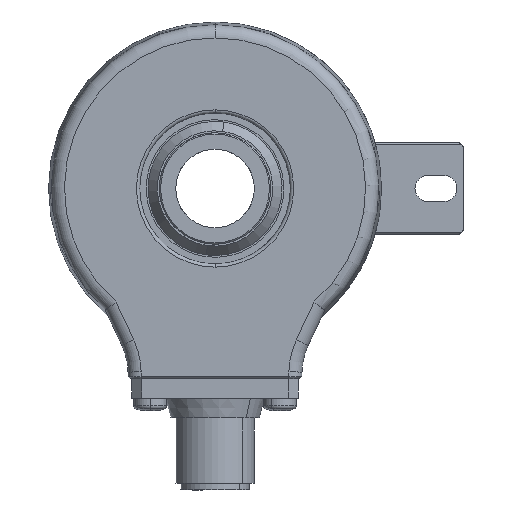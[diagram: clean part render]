
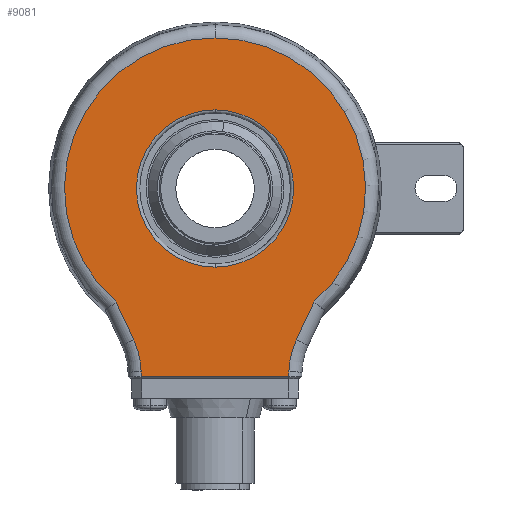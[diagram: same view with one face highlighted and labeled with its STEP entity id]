
A CAD part, left-side view. The second image highlights one B-rep face of the part: STEP entity #9081.
In plain terms, the highlighted planar face has unit normal (-1, 0, 0).
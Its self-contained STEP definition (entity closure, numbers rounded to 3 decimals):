
#1371 = FACE_OUTER_BOUND ( 'NONE', #8936, .T. ) ;
#1372 = DIRECTION ( 'NONE',  ( 0., 0., 1. ) ) ;
#1373 = DIRECTION ( 'NONE',  ( 1., 0., 0. ) ) ;
#1384 = AXIS2_PLACEMENT_3D ( 'NONE', #1387, #1373, #1372 ) ;
#1385 = CIRCLE ( 'NONE', #1384, 12. ) ;
#1386 = FACE_BOUND ( 'NONE', #8933, .T. ) ;
#1387 = CARTESIAN_POINT ( 'NONE',  ( -21., 0., 0. ) ) ;
#1401 = DIRECTION ( 'NONE',  ( 0., 0., 1. ) ) ;
#1402 = DIRECTION ( 'NONE',  ( 1., 0., 0. ) ) ;
#1403 = CARTESIAN_POINT ( 'NONE',  ( -21., 0., 0. ) ) ;
#1404 = AXIS2_PLACEMENT_3D ( 'NONE', #1403, #1402, #1401 ) ;
#1406 = PLANE ( 'NONE',  #1404 ) ;
#1548 = DIRECTION ( 'NONE',  ( 0., -0.017, 1. ) ) ;
#1549 = VECTOR ( 'NONE', #1548, 1000. ) ;
#1550 = CARTESIAN_POINT ( 'NONE',  ( -21., -11.752, -0.205 ) ) ;
#1551 = LINE ( 'NONE', #1550, #1549 ) ;
#1584 = DIRECTION ( 'NONE',  ( 0., -0.017, -1. ) ) ;
#1585 = VECTOR ( 'NONE', #1584, 1000. ) ;
#1586 = CARTESIAN_POINT ( 'NONE',  ( -21., 11.752, -0.205 ) ) ;
#1587 = LINE ( 'NONE', #1586, #1585 ) ;
#2476 = CARTESIAN_POINT ( 'NONE',  ( -21., -11.255, -28.695 ) ) ;
#2661 = DIRECTION ( 'NONE',  ( 0., -1., 0. ) ) ;
#2662 = VECTOR ( 'NONE', #2661, 1000. ) ;
#2663 = CARTESIAN_POINT ( 'NONE',  ( -21., -11.25, -28.695 ) ) ;
#2664 = LINE ( 'NONE', #2663, #2662 ) ;
#3091 = CARTESIAN_POINT ( 'NONE',  ( -21., 11.255, -28.695 ) ) ;
#7891 = VERTEX_POINT ( 'NONE', #12160 ) ;
#7892 = EDGE_CURVE ( 'NONE', #8028, #7891, #12167, .T. ) ;
#7896 = VERTEX_POINT ( 'NONE', #12159 ) ;
#7904 = EDGE_CURVE ( 'NONE', #8073, #7924, #12193, .T. ) ;
#7923 = VERTEX_POINT ( 'NONE', #12307 ) ;
#7924 = VERTEX_POINT ( 'NONE', #12294 ) ;
#7977 = EDGE_CURVE ( 'NONE', #7891, #7896, #12327, .T. ) ;
#7983 = EDGE_CURVE ( 'NONE', #7924, #8027, #12519, .T. ) ;
#8006 = VERTEX_POINT ( 'NONE', #12553 ) ;
#8007 = VERTEX_POINT ( 'NONE', #12551 ) ;
#8026 = EDGE_CURVE ( 'NONE', #8027, #8028, #12650, .T. ) ;
#8027 = VERTEX_POINT ( 'NONE', #12771 ) ;
#8028 = VERTEX_POINT ( 'NONE', #12770 ) ;
#8073 = VERTEX_POINT ( 'NONE', #12719 ) ;
#8075 = EDGE_CURVE ( 'NONE', #7923, #8073, #12717, .T. ) ;
#8166 = EDGE_CURVE ( 'NONE', #8007, #8006, #13001, .T. ) ;
#8933 = EDGE_LOOP ( 'NONE', ( #8934, #8935 ) ) ;
#8934 = ORIENTED_EDGE ( 'NONE', *, *, #8166, .T. ) ;
#8935 = ORIENTED_EDGE ( 'NONE', *, *, #9080, .T. ) ;
#8936 = EDGE_LOOP ( 'NONE', ( #8937, #8938, #9116, #9118, #9119, #9120, #9121, #9122, #9123 ) ) ;
#8937 = ORIENTED_EDGE ( 'NONE', *, *, #9128, .T. ) ;
#8938 = ORIENTED_EDGE ( 'NONE', *, *, #9466, .T. ) ;
#9080 = EDGE_CURVE ( 'NONE', #8006, #8007, #1385, .T. ) ;
#9081 = ADVANCED_FACE ( 'NONE', ( #1386, #1371 ), #1406, .F. ) ;
#9116 = ORIENTED_EDGE ( 'NONE', *, *, #9117, .T. ) ;
#9117 = EDGE_CURVE ( 'NONE', #9421, #7923, #1551, .T. ) ;
#9118 = ORIENTED_EDGE ( 'NONE', *, *, #8075, .T. ) ;
#9119 = ORIENTED_EDGE ( 'NONE', *, *, #7904, .T. ) ;
#9120 = ORIENTED_EDGE ( 'NONE', *, *, #7983, .T. ) ;
#9121 = ORIENTED_EDGE ( 'NONE', *, *, #8026, .T. ) ;
#9122 = ORIENTED_EDGE ( 'NONE', *, *, #7892, .T. ) ;
#9123 = ORIENTED_EDGE ( 'NONE', *, *, #7977, .T. ) ;
#9128 = EDGE_CURVE ( 'NONE', #7896, #9590, #1587, .T. ) ;
#9421 = VERTEX_POINT ( 'NONE', #2476 ) ;
#9466 = EDGE_CURVE ( 'NONE', #9590, #9421, #2664, .T. ) ;
#9590 = VERTEX_POINT ( 'NONE', #3091 ) ;
#12159 = CARTESIAN_POINT ( 'NONE',  ( -21., 11.268, -27.974 ) ) ;
#12160 = CARTESIAN_POINT ( 'NONE',  ( -21., 12.39, -23.112 ) ) ;
#12164 = DIRECTION ( 'NONE',  ( 0., -0.423, -0.906 ) ) ;
#12165 = VECTOR ( 'NONE', #12164, 1000. ) ;
#12166 = CARTESIAN_POINT ( 'NONE',  ( -21., 12.39, -23.112 ) ) ;
#12167 = LINE ( 'NONE', #12166, #12165 ) ;
#12193 = LINE ( 'NONE', #12274, #12266 ) ;
#12265 = DIRECTION ( 'NONE',  ( 0., -0.423, 0.906 ) ) ;
#12266 = VECTOR ( 'NONE', #12265, 1000. ) ;
#12274 = CARTESIAN_POINT ( 'NONE',  ( -21., -14.953, -17.615 ) ) ;
#12294 = CARTESIAN_POINT ( 'NONE',  ( -21., -15.091, -17.32 ) ) ;
#12307 = CARTESIAN_POINT ( 'NONE',  ( -21., -11.268, -27.974 ) ) ;
#12323 = DIRECTION ( 'NONE',  ( 0., 0., 1. ) ) ;
#12324 = DIRECTION ( 'NONE',  ( 1., 0., 0. ) ) ;
#12325 = CARTESIAN_POINT ( 'NONE',  ( -21., 23.266, -28.183 ) ) ;
#12326 = AXIS2_PLACEMENT_3D ( 'NONE', #12325, #12324, #12323 ) ;
#12327 = CIRCLE ( 'NONE', #12326, 12. ) ;
#12510 = DIRECTION ( 'NONE',  ( 0., 0., 1. ) ) ;
#12511 = DIRECTION ( 'NONE',  ( -1., 0., 0. ) ) ;
#12512 = CARTESIAN_POINT ( 'NONE',  ( -21., 0., 0. ) ) ;
#12513 = AXIS2_PLACEMENT_3D ( 'NONE', #12512, #12511, #12510 ) ;
#12519 = CIRCLE ( 'NONE', #12513, 22.972 ) ;
#12551 = CARTESIAN_POINT ( 'NONE',  ( -21., 0., 12. ) ) ;
#12553 = CARTESIAN_POINT ( 'NONE',  ( -21., 0., -12. ) ) ;
#12650 = CIRCLE ( 'NONE', #12774, 22.972 ) ;
#12663 = DIRECTION ( 'NONE',  ( 0., 0., 1. ) ) ;
#12704 = CARTESIAN_POINT ( 'NONE',  ( -21., 0., 0. ) ) ;
#12714 = DIRECTION ( 'NONE',  ( 1., 0., 0. ) ) ;
#12715 = CARTESIAN_POINT ( 'NONE',  ( -21., -23.266, -28.183 ) ) ;
#12716 = AXIS2_PLACEMENT_3D ( 'NONE', #12715, #12714, #12663 ) ;
#12717 = CIRCLE ( 'NONE', #12716, 12. ) ;
#12719 = CARTESIAN_POINT ( 'NONE',  ( -21., -12.39, -23.112 ) ) ;
#12770 = CARTESIAN_POINT ( 'NONE',  ( -21., 15.091, -17.32 ) ) ;
#12771 = CARTESIAN_POINT ( 'NONE',  ( -21., 0., 22.972 ) ) ;
#12772 = DIRECTION ( 'NONE',  ( 0., 0., 1. ) ) ;
#12773 = DIRECTION ( 'NONE',  ( -1., 0., 0. ) ) ;
#12774 = AXIS2_PLACEMENT_3D ( 'NONE', #12704, #12773, #12772 ) ;
#12998 = DIRECTION ( 'NONE',  ( 0., 0., 1. ) ) ;
#12999 = DIRECTION ( 'NONE',  ( 1., 0., 0. ) ) ;
#13000 = AXIS2_PLACEMENT_3D ( 'NONE', #13008, #12999, #12998 ) ;
#13001 = CIRCLE ( 'NONE', #13000, 12. ) ;
#13008 = CARTESIAN_POINT ( 'NONE',  ( -21., 0., 0. ) ) ;
